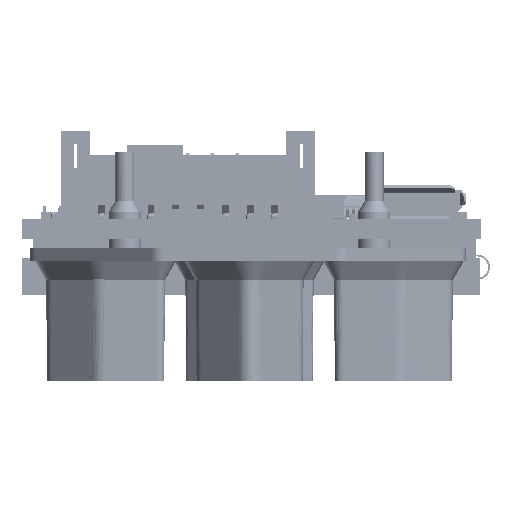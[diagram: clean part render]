
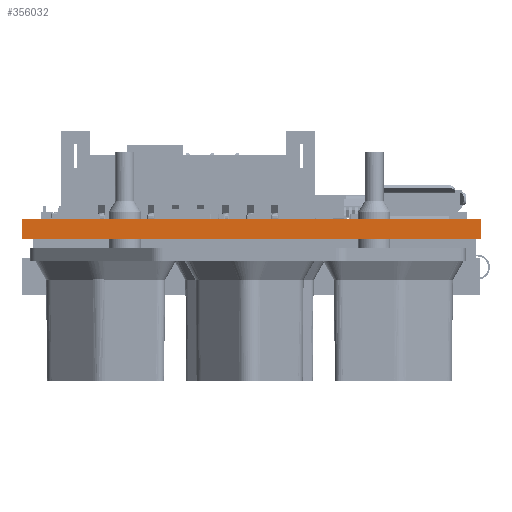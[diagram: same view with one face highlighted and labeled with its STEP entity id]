
A CAD part, left-side view. The second image highlights one B-rep face of the part: STEP entity #356032.
In plain terms, the highlighted planar face has unit normal (-1, 0, 0).
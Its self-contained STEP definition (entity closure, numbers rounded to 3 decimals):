
#5192 = LINE ( 'NONE', #366364, #384765 ) ;
#61595 = LINE ( 'NONE', #269630, #500443 ) ;
#68043 = LINE ( 'NONE', #170481, #581725 ) ;
#72885 = VERTEX_POINT ( 'NONE', #395284 ) ;
#122415 = LINE ( 'NONE', #504078, #329984 ) ;
#166385 = ORIENTED_EDGE ( 'NONE', *, *, #313905, .T. ) ;
#170481 = CARTESIAN_POINT ( 'NONE',  ( 40.005, 38.862, 1.623 ) ) ;
#170803 = DIRECTION ( 'NONE',  ( 0., -1., 0. ) ) ;
#174304 = AXIS2_PLACEMENT_3D ( 'NONE', #553515, #287540, #290833 ) ;
#186162 = VERTEX_POINT ( 'NONE', #613744 ) ;
#251617 = EDGE_CURVE ( 'NONE', #637901, #72885, #68043, .T. ) ;
#269630 = CARTESIAN_POINT ( 'NONE',  ( 40.005, 75.862, 1.623 ) ) ;
#287540 = DIRECTION ( 'NONE',  ( 1., 0., 0. ) ) ;
#290833 = DIRECTION ( 'NONE',  ( 0., 0., -1. ) ) ;
#300834 = FACE_OUTER_BOUND ( 'NONE', #358588, .T. ) ;
#313905 = EDGE_CURVE ( 'NONE', #599492, #72885, #122415, .T. ) ;
#329984 = VECTOR ( 'NONE', #653936, 1000. ) ;
#348893 = EDGE_CURVE ( 'NONE', #186162, #599492, #5192, .T. ) ;
#356032 = ADVANCED_FACE ( 'NONE', ( #300834 ), #658945, .F. ) ;
#358588 = EDGE_LOOP ( 'NONE', ( #166385, #424335, #361907, #561372 ) ) ;
#361907 = ORIENTED_EDGE ( 'NONE', *, *, #463269, .F. ) ;
#366364 = CARTESIAN_POINT ( 'NONE',  ( 40.005, 75.862, 1.623 ) ) ;
#373095 = DIRECTION ( 'NONE',  ( 0., 0., -1. ) ) ;
#384765 = VECTOR ( 'NONE', #373095, 1000. ) ;
#395284 = CARTESIAN_POINT ( 'NONE',  ( 40.005, 38.862, 0. ) ) ;
#424335 = ORIENTED_EDGE ( 'NONE', *, *, #251617, .F. ) ;
#463269 = EDGE_CURVE ( 'NONE', #186162, #637901, #61595, .T. ) ;
#500443 = VECTOR ( 'NONE', #170803, 1000. ) ;
#504078 = CARTESIAN_POINT ( 'NONE',  ( 40.005, 75.862, 0. ) ) ;
#540603 = CARTESIAN_POINT ( 'NONE',  ( 40.005, 75.862, 0. ) ) ;
#553515 = CARTESIAN_POINT ( 'NONE',  ( 40.005, 75.862, 1.623 ) ) ;
#561372 = ORIENTED_EDGE ( 'NONE', *, *, #348893, .T. ) ;
#581725 = VECTOR ( 'NONE', #637547, 1000. ) ;
#599492 = VERTEX_POINT ( 'NONE', #540603 ) ;
#613744 = CARTESIAN_POINT ( 'NONE',  ( 40.005, 75.862, 1.623 ) ) ;
#637547 = DIRECTION ( 'NONE',  ( 0., 0., -1. ) ) ;
#637901 = VERTEX_POINT ( 'NONE', #651316 ) ;
#651316 = CARTESIAN_POINT ( 'NONE',  ( 40.005, 38.862, 1.623 ) ) ;
#653936 = DIRECTION ( 'NONE',  ( 0., -1., 0. ) ) ;
#658945 = PLANE ( 'NONE',  #174304 ) ;
